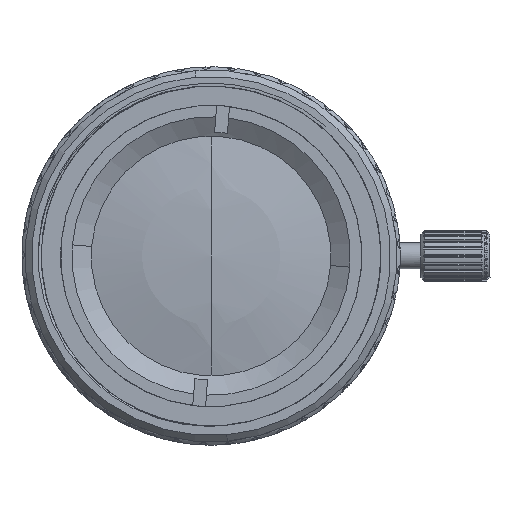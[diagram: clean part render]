
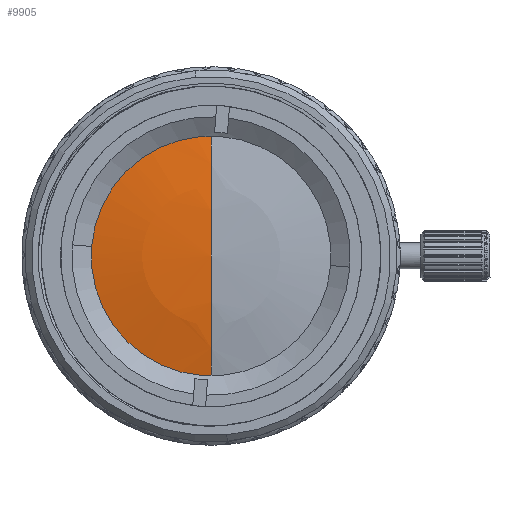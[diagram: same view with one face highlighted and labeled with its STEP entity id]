
A CAD part, left-side view. The second image highlights one B-rep face of the part: STEP entity #9905.
In plain terms, the highlighted spherical face has radius 49.38 mm.
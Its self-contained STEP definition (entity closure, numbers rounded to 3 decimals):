
#1115 = AXIS2_PLACEMENT_3D ( 'NONE', #39303, #17648, #23892 ) ;
#1131 = EDGE_CURVE ( 'NONE', #4980, #2858, #24190, .T. ) ;
#2543 = DIRECTION ( 'NONE',  ( -1., 0., 0. ) ) ;
#2858 = VERTEX_POINT ( 'NONE', #10721 ) ;
#4980 = VERTEX_POINT ( 'NONE', #12631 ) ;
#9905 = ADVANCED_FACE ( 'NONE', ( #20835 ), #15000, .T. ) ;
#10721 = CARTESIAN_POINT ( 'NONE',  ( -29.599, 1.284, 33.8 ) ) ;
#11658 = DIRECTION ( 'NONE',  ( 0., 0., 1. ) ) ;
#12631 = CARTESIAN_POINT ( 'NONE',  ( -29.599, 1.285, 12.4 ) ) ;
#12971 = CIRCLE ( 'NONE', #22934, 10.7 ) ;
#13313 = CARTESIAN_POINT ( 'NONE',  ( 18.607, 1.285, 23.1 ) ) ;
#13726 = CIRCLE ( 'NONE', #1115, 10.7 ) ;
#15000 = SPHERICAL_SURFACE ( 'NONE', #34902, 49.38 ) ;
#16050 = DIRECTION ( 'NONE',  ( 0., 1., 0. ) ) ;
#16830 = ORIENTED_EDGE ( 'NONE', *, *, #30322, .T. ) ;
#17648 = DIRECTION ( 'NONE',  ( -1., 0., 0. ) ) ;
#20835 = FACE_OUTER_BOUND ( 'NONE', #30182, .T. ) ;
#22193 = AXIS2_PLACEMENT_3D ( 'NONE', #13313, #16050, #26038 ) ;
#22934 = AXIS2_PLACEMENT_3D ( 'NONE', #36115, #2543, #40830 ) ;
#23892 = DIRECTION ( 'NONE',  ( 0., -1., 0. ) ) ;
#24161 = CARTESIAN_POINT ( 'NONE',  ( 18.607, 1.285, 23.1 ) ) ;
#24190 = CIRCLE ( 'NONE', #22193, 49.38 ) ;
#26038 = DIRECTION ( 'NONE',  ( 0., 0., 1. ) ) ;
#29728 = VERTEX_POINT ( 'NONE', #38775 ) ;
#30182 = EDGE_LOOP ( 'NONE', ( #16830, #39116, #32574 ) ) ;
#30322 = EDGE_CURVE ( 'NONE', #2858, #29728, #12971, .T. ) ;
#30644 = DIRECTION ( 'NONE',  ( 1., 0., 0. ) ) ;
#32574 = ORIENTED_EDGE ( 'NONE', *, *, #1131, .T. ) ;
#34902 = AXIS2_PLACEMENT_3D ( 'NONE', #24161, #30644, #11658 ) ;
#36115 = CARTESIAN_POINT ( 'NONE',  ( -29.599, 1.285, 23.1 ) ) ;
#38775 = CARTESIAN_POINT ( 'NONE',  ( -29.599, 11.985, 23.101 ) ) ;
#39116 = ORIENTED_EDGE ( 'NONE', *, *, #41000, .T. ) ;
#39303 = CARTESIAN_POINT ( 'NONE',  ( -29.599, 1.285, 23.1 ) ) ;
#40830 = DIRECTION ( 'NONE',  ( 0., -1., 0. ) ) ;
#41000 = EDGE_CURVE ( 'NONE', #29728, #4980, #13726, .T. ) ;
